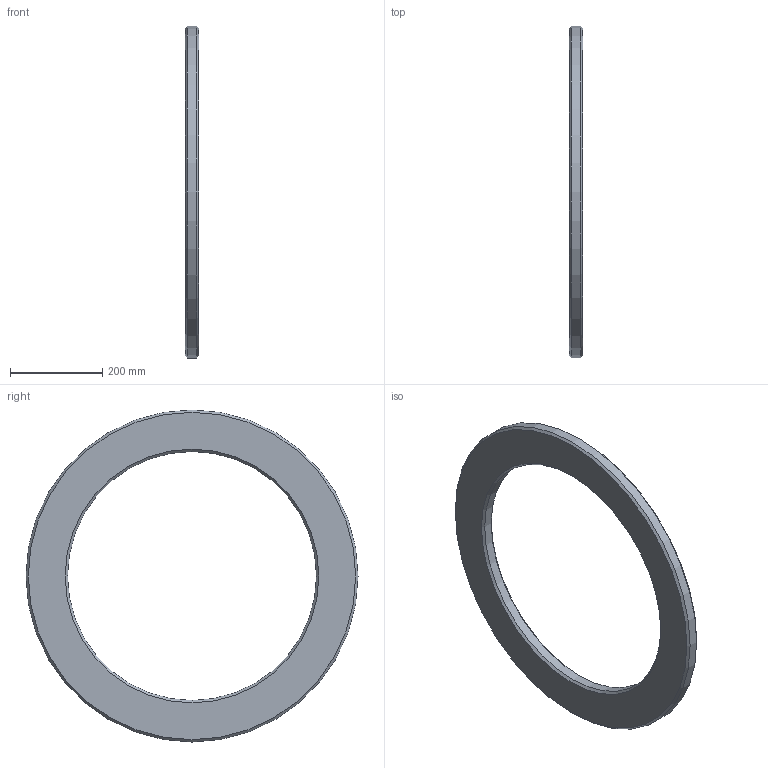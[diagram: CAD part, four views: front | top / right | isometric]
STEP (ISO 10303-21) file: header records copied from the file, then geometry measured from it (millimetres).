
FILE_DESCRIPTION(/* description */ (''),/* implementation_level */ '2;1');
FILE_NAME(/* name */ 'C:\Users\jbart\OneDrive\Plocha\Nová složka\3D modely - stp\Bočnice - levá.stp',/* time_stamp */ '2025-05-15T16:45:30+02:00',/* author */ ('jbart'),/* organization */ (''),/* preprocessor_version */ 'ST-DEVELOPER v18.1',/* originating_system */ 'Autodesk Inventor 2022',/* authorisation */ '');
FILE_SCHEMA (('AUTOMOTIVE_DESIGN { 1 0 10303 214 3 1 1 }'));
Length unit declared in the file: millimetre
Products named in the file (1): Bočnice - levá
Bounding box: 30 x 720 x 720 mm (x, y, z)
Volume: 5244888.9 mm3; surface area: 451821 mm2
Topology: 1 solids, 1 shells, 8 faces, 18 edges, 12 vertices
Faces by surface type: cone 4, cylinder 2, plane 2
Full cylindrical faces by diameter (mm): 540 x1, 720 x1
Entity records: 279 total; most frequent: DIRECTION 48, CARTESIAN_POINT 39, ORIENTED_EDGE 36, AXIS2_PLACEMENT_3D 21, EDGE_CURVE 18, CIRCLE 12, VERTEX_POINT 12, EDGE_LOOP 10
